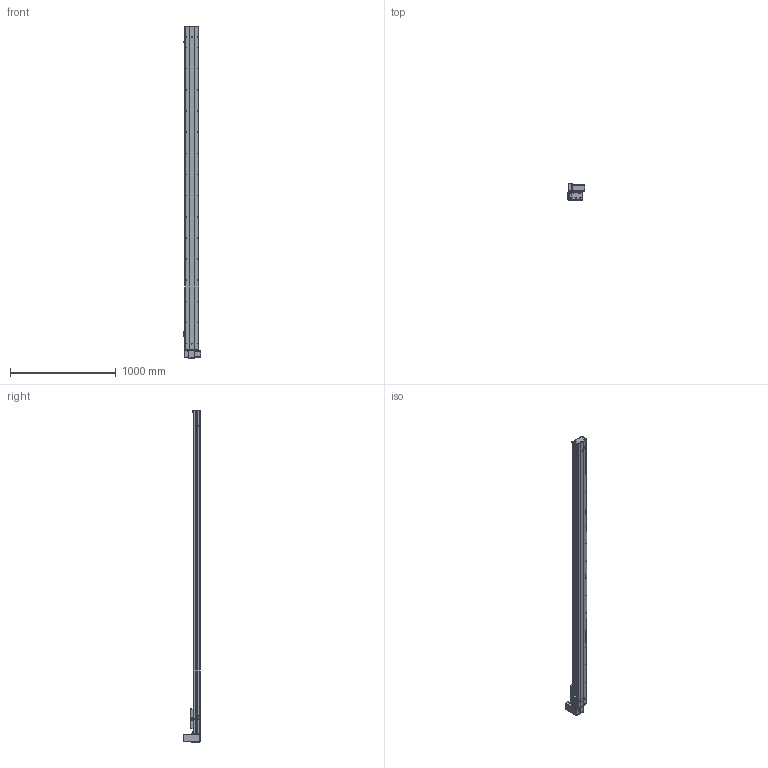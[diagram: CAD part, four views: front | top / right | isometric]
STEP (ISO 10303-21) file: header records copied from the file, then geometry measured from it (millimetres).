
FILE_DESCRIPTION (( 'STEP AP203' ), '1' );
FILE_NAME ('Y135CB-D90-S2750-UR-P400W.STEP', '2020-02-18T06:44:23', ( '微软用户' ), ( '微软中国' ), 'SwSTEP 2.0', 'SolidWorks 2017', '' );
FILE_SCHEMA (( 'CONFIG_CONTROL_DESIGN' ));
Length unit declared in the file: millimetre
Products named in the file (18): Y10B--々湍喘謫眊--666; san松下电机400不带刹车----; Y10B-耜蚾蟀諉啣----; 5CB --掛极耜裔啣-; 00B-俋欶BM--; C-詩湍揤踡え-陔; Y135CB-耜裔; Y135CB-D90-S2750-UR-P400W; 135CB--詩湍-CE; 135CB---遴掛极.-; Y100-135俋离換覜ん--; 35CB---喘謫眊楊擘啣; Y135C-陔俋离換覜結え-; 0B-埴倛裔啣; 5C--俋欶; 0B-源倛裔啣; C-雄赽釱--; 0B-萇儂楊擘啣
Assembly tree (21 placements, depth 2):
  Y135CB-D90-S2750-UR-P400W
    Y135CB-耜裔
    135CB---遴掛极.-
    35CB---喘謫眊楊擘啣
    0B-埴倛裔啣
    0B-源倛裔啣
    0B-萇儂楊擘啣
    san松下电机400不带刹车----
    5CB --掛极耜裔啣-  x2
    C-詩湍揤踡え-陔  x2
    135CB--詩湍-CE
    Y100-135俋离換覜ん--  x3
    Y135C-陔俋离換覜結え-
    5C--俋欶
    C-雄赽釱--
    Y10B--々湍喘謫眊--666
    Y10B-耜蚾蟀諉啣----
    00B-俋欶BM--
Bounding box: 167.5 x 158.7 x 3138 mm (x, y, z)
Volume: 8930990.4 mm3; surface area: 3540659.8 mm2
Topology: 21 solids, 21 shells, 981 faces, 2689 edges, 1782 vertices
Faces by surface type: cylinder 509, plane 456, cone 16
Entity records: 31167 total; most frequent: CARTESIAN_POINT 5208, DIRECTION 5181, ORIENTED_EDGE 4854, EDGE_CURVE 2427, AXIS2_PLACEMENT_3D 1903, VERTEX_POINT 1610, LINE 1375, VECTOR 1375
